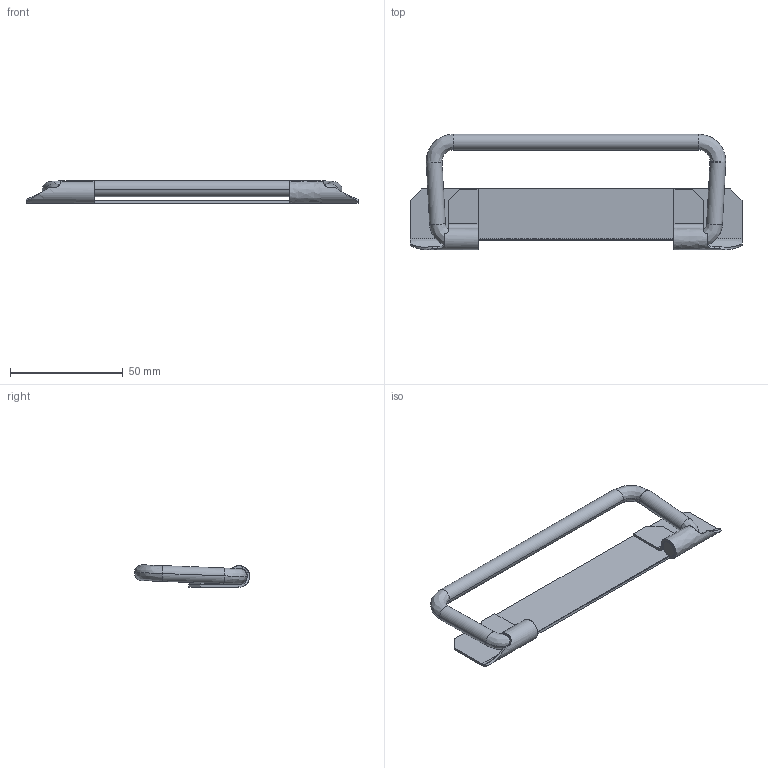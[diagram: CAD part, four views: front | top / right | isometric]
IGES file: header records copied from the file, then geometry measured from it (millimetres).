
Start section: SolidWorks IGES FILE using analytic representation for surfaces
Global section: file name: C:\Documents and Settings\lecoutey\Bureau\PO 321\PO 321.IGS; native system: SolidWorks 2004 by SolidWorks Corporation; preprocessor: Version 5.3; author: lecoutey; date: 050408.135326; units: millimetre
Bounding box: 147.4 x 51.21 x 9.9 mm (x, y, z)
Surface area: 14880.7 mm2 (no closed solid volume)
Topology: 0 solids, 0 shells, 78 faces, 684 edges, 684 vertices
Faces by surface type: bspline 62, revolution 16
